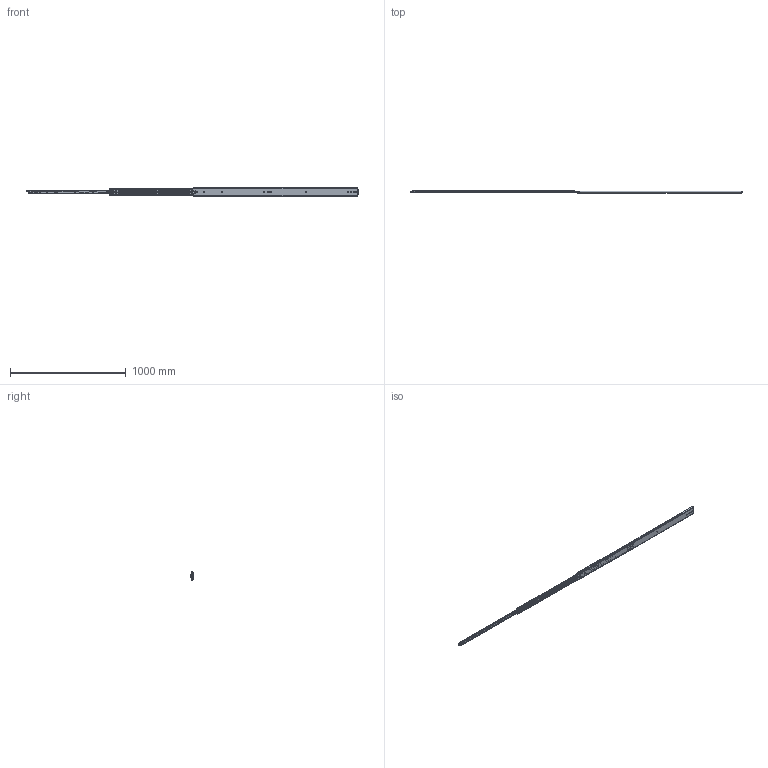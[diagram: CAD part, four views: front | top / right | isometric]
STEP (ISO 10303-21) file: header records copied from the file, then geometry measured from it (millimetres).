
FILE_DESCRIPTION((''),'2;1');
FILE_NAME('DG-76-3S-56YOU_ASM','2023-05-11T',('jishu015'),(''),'PRO/ENGINEER BY PARAMETRIC TECHNOLOGY CORPORATION, 2010280','PRO/ENGINEER BY PARAMETRIC TECHNOLOGY CORPORATION, 2010280','');
FILE_SCHEMA(('CONFIG_CONTROL_DESIGN'));
Products named in the file (29): KP-76-04WAIKE-181621; 1076-WAIKEZIDANJIAO1621___; WAIK16_______________ASM; 1076XIAOZHUTIAO-2251621___; 16______________; 1076XIAOZHUTIAO-1751621____ASM; KP-76-04ZHONGGUI181611__; 76CHANGGUIZHONGGUIJIAO16221; 3X6WODIN16______________; ZHONGGUIBAIKOU16______________; PJ-76-30_____________; PJ-76-03_____________; 76-XIAOZHUJIA-11_____________; GANGZHU-XIAO_____________; ZHUJIA-XIAO______________ASM; ZHONGGUI6_______________ASM; KP-76-04NEIGUI181621; PJ-76-31_____________; DAOGPIAN16______________; 1053-3SBANJ01_____________; JIAO-11_____________; 76XINSUOKOU_____________; PJ-338_____________; PJ-356_____________; PJ-357_____________; PJ-336_____________; M4X4_____________; NEIGUI16_______________ASM; DG-76-3S-56YOU_ASM
Assembly tree (108 placements, depth 4):
  DG-76-3S-56YOU_ASM
    WAIK16_______________ASM
      KP-76-04WAIKE-181621
      1076-WAIKEZIDANJIAO1621___  x2
    1076XIAOZHUTIAO-1751621____ASM  x2
      1076XIAOZHUTIAO-2251621___
      16______________
    ZHONGGUI6_______________ASM
      KP-76-04ZHONGGUI181611__
      76CHANGGUIZHONGGUIJIAO16221
      3X6WODIN16______________
      ZHONGGUIBAIKOU16______________
      PJ-76-30_____________
      PJ-76-03_____________
      ZHUJIA-XIAO______________ASM
        76-XIAOZHUJIA-11_____________
        GANGZHU-XIAO_____________  x54
    NEIGUI16_______________ASM
      KP-76-04NEIGUI181621
      PJ-76-31_____________
      DAOGPIAN16______________
      1053-3SBANJ01_____________
      JIAO-11_____________
      76XINSUOKOU_____________
      PJ-338_____________
      PJ-356_____________
      PJ-357_____________
      PJ-336_____________
      M4X4_____________
Bounding box: 2870.72 x 20.7 x 75.3 mm (x, y, z)
Volume: 942204.3 mm3; surface area: 908434.8 mm2
Topology: 130 solids, 130 shells, 2962 faces, 9106 edges, 5733 vertices
Faces by surface type: plane 1535, cylinder 1081, sphere 219, bspline 60, cone 28, extrusion 23, torus 16
Entity records: 93589 total; most frequent: CARTESIAN_POINT 24603, ORIENTED_EDGE 15216, DIRECTION 13595, EDGE_CURVE 7608, VERTEX_POINT 4957, AXIS2_PLACEMENT_3D 4705, VECTOR 4185, LINE 4162
